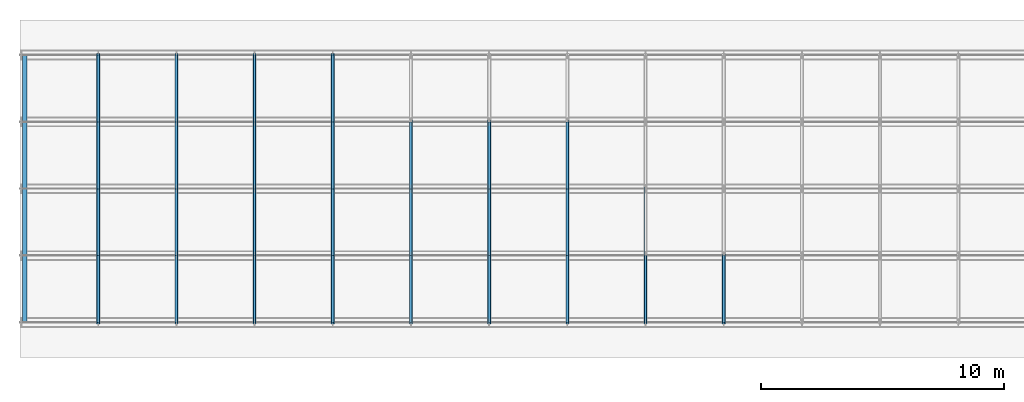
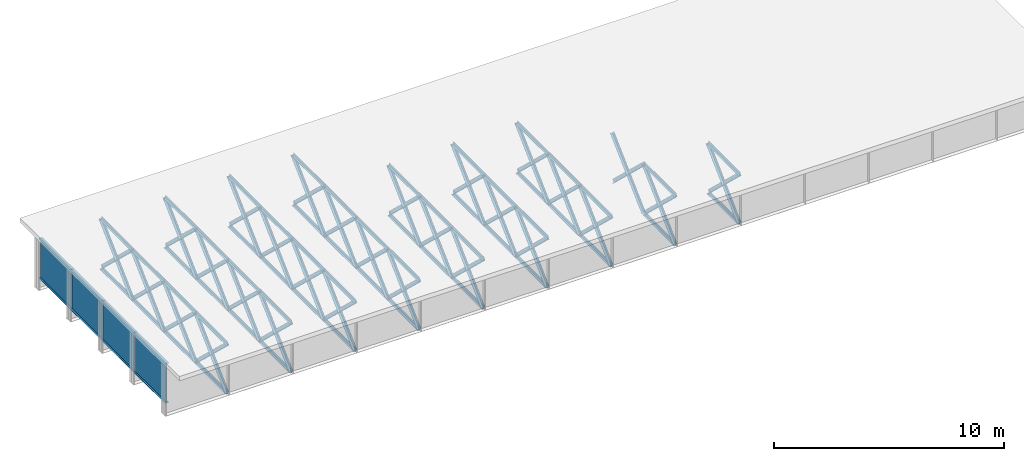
# One storey, part 1 of 20: 114 members.
"""IFC4 building model written with IfcOpenShell, lengths in metres."""

import ifcopenshell
import ifcopenshell.guid

model = None  # the IFC model being written
_history = None  # IfcOwnerHistory: only IFC2X3 demands one
_inside = {}  # id of a spatial element -> (the spatial element, [elements in it])
_under = {}  # id of a project, library or spatial element -> (it, [spatial elements below it])
_declared = {}  # id of a project -> (the project, [libraries it declares])
_typed = {}  # id of a type object -> (the type object, [elements of that type])
_made_of = {}  # id of a material, layer set ... -> (it, [elements and type objects made of it])


def new_model(schema):
    """Start an empty IFC model of exactly this schema.

    Asked for "IFC4X3", IfcOpenShell would pick the latest addendum, in which some entities
    have other attributes; the version numbers below select the first issue.
    IFC2X3 requires an IfcOwnerHistory on every rooted entity: one is made here for all.
    """
    global model, _history
    if schema == "IFC4X3":
        model = ifcopenshell.file(schema_version=(4, 3, 0, 0))
    else:
        model = ifcopenshell.file(schema=schema)
    _inside.clear()
    _under.clear()
    _declared.clear()
    _typed.clear()
    _made_of.clear()
    _history = None
    if model.schema == "IFC2X3":
        org = make("IfcOrganization", Name="unknown")
        user = make(
            "IfcPersonAndOrganization",
            ThePerson=make("IfcPerson", FamilyName="unknown"),
            TheOrganization=org,
        )
        app = make(
            "IfcApplication",
            ApplicationDeveloper=org,
            Version="unknown",
            ApplicationFullName="unknown",
            ApplicationIdentifier="unknown",
        )
        _history = make(
            "IfcOwnerHistory",
            OwningUser=user,
            OwningApplication=app,
            ChangeAction="ADDED",
            CreationDate=0,
        )
    return model


def make(cls, **values):
    """One entity of the class cls with the attributes given. An attribute that is None is left unset."""
    return model.create_entity(
        cls, **{name: value for name, value in values.items() if value is not None}
    )


def rooted(cls, **values):
    """An entity with a GlobalId (a new one), such as an element, a storey or a relation."""
    return make(cls, GlobalId=ifcopenshell.guid.new(), OwnerHistory=_history, **values)


def si_unit(unit_type, name, prefix=None):
    """IfcSIUnit, for example si_unit("LENGTHUNIT", "METRE", prefix="MILLI")."""
    return make("IfcSIUnit", UnitType=unit_type, Prefix=prefix, Name=name)


def assignment(units):
    """IfcUnitAssignment: the units of a project."""
    return None if units is None else make("IfcUnitAssignment", Units=units)


def point(xyz):
    """IfcCartesianPoint."""
    return None if xyz is None else make("IfcCartesianPoint", Coordinates=xyz)


def direction(xyz):
    """IfcDirection."""
    return None if xyz is None else make("IfcDirection", DirectionRatios=xyz)


def frame(location, z_axis=None, x_axis=None):
    """IfcAxis2Placement3D, a coordinate frame: its origin and axes. An axis left out is left unset."""
    return make(
        "IfcAxis2Placement3D",
        Location=point(location),
        Axis=direction(z_axis),
        RefDirection=direction(x_axis),
    )


def frame_2d(location, x_axis=None):
    """IfcAxis2Placement2D, a coordinate frame in the plane: its origin and x axis."""
    return make(
        "IfcAxis2Placement2D", Location=point(location), RefDirection=direction(x_axis)
    )


def origin():
    """The frame at (0, 0, 0) with its axes left unset."""
    return frame((0.0, 0.0, 0.0))


def origin_with_axes():
    """The frame at (0, 0, 0) with the z axis (0, 0, 1) and the x axis (1, 0, 0) written out."""
    return frame((0.0, 0.0, 0.0), z_axis=(0.0, 0.0, 1.0), x_axis=(1.0, 0.0, 0.0))


def origin_2d_with_axis():
    """The frame at (0, 0) in the plane with the x axis (1, 0) written out."""
    return frame_2d((0.0, 0.0), x_axis=(1.0, 0.0))


def place(relative_to, where):
    """IfcLocalPlacement: puts the frame where relative to a parent placement (None: the world)."""
    return make(
        "IfcLocalPlacement", PlacementRelTo=relative_to, RelativePlacement=where
    )


def context(
    kind, dimensions, precision=None, world=None, true_north=None, identifier=None
):
    """IfcGeometricRepresentationContext, for example the 3D "Model" context."""
    return make(
        "IfcGeometricRepresentationContext",
        ContextIdentifier=identifier,
        ContextType=kind,
        CoordinateSpaceDimension=dimensions,
        Precision=precision,
        WorldCoordinateSystem=world,
        TrueNorth=true_north,
    )


def subcontext(parent, identifier, kind, view, scale=None):
    """IfcGeometricRepresentationSubContext, for example "Body" below "Model"."""
    return make(
        "IfcGeometricRepresentationSubContext",
        ContextIdentifier=identifier,
        ContextType=kind,
        ParentContext=parent,
        TargetScale=scale,
        TargetView=view,
    )


def project(units=None, contexts=None):
    """IfcProject with its units and contexts."""
    return rooted(
        "IfcProject",
        Name="project",
        RepresentationContexts=contexts,
        UnitsInContext=assignment(units),
    )


def spatial(cls, under=None, at=None, **own):
    """A site, building, storey or space (cls), placed at a placement, below another one or the project."""
    s = rooted(cls, ObjectPlacement=at, **own)
    if under is not None:
        _under.setdefault(under.id(), (under, []))[1].append(s)
    return s


def profile(cls, at=None, kind="AREA", **sizes):
    """A parametric profile (cls). Its sizes go by their IFC names, for example OverallWidth=200.0."""
    return make(cls, ProfileType=kind, Position=at, **sizes)


def i_section(**sizes):
    """IfcIShapeProfileDef."""
    return profile("IfcIShapeProfileDef", **sizes)


def l_section(**sizes):
    """IfcLShapeProfileDef."""
    return profile("IfcLShapeProfileDef", **sizes)


def extrude(swept, where, along, depth):
    """IfcExtrudedAreaSolid: the profile swept, set in the frame where, extruded along a direction by depth."""
    return make(
        "IfcExtrudedAreaSolid",
        SweptArea=swept,
        Position=where,
        ExtrudedDirection=direction(along),
        Depth=depth,
    )


def shape(context_of_items, identifier, shape_type, items):
    """IfcShapeRepresentation: the items that make up one representation, for example the "Body"."""
    return make(
        "IfcShapeRepresentation",
        ContextOfItems=context_of_items,
        RepresentationIdentifier=identifier,
        RepresentationType=shape_type,
        Items=items,
    )


def made_of(thing, what):
    """Note that an element or type object is made of a material, layer set ...; save() writes the relation."""
    if what is not None:
        _made_of.setdefault(what.id(), (what, []))[1].append(thing)
    return thing


def element(
    cls,
    number,
    at=None,
    inside=None,
    cuts=None,
    type_object=None,
    material=None,
    context=None,
    identifier="Body",
    shape_type=None,
    held_by="IfcProductDefinitionShape",
    body=None,
    shapes=None,
    **own,
):
    """One element of the class cls, such as IfcWall. Its Tag is "e" and its number.

    at: its placement. inside: the storey or other place that contains it. cuts: it is an
    opening in that element (IfcRelVoidsElement). A single representation is given by context,
    identifier, shape_type and body (its items); several are given by shapes. held_by: the class
    of the entity that holds the representations. save() writes the other relations.
    """
    e = rooted(cls, Tag="e%d" % number, ObjectPlacement=at, **own)
    if body is not None:
        shapes = [shape(context, identifier, shape_type, body)]
    if shapes is not None:
        e.Representation = make(held_by, Representations=shapes)
    if inside is not None:
        _inside.setdefault(inside.id(), (inside, []))[1].append(e)
    if cuts is not None:
        rooted(
            "IfcRelVoidsElement", RelatingBuildingElement=cuts, RelatedOpeningElement=e
        )
    if type_object is not None:
        _typed.setdefault(type_object.id(), (type_object, []))[1].append(e)
    return made_of(e, material)


def aggregate(whole, parts):
    """IfcRelAggregates: a whole, such as a stair, and the parts it consists of."""
    return rooted("IfcRelAggregates", RelatingObject=whole, RelatedObjects=parts)


def save(model, path):
    """Write the relations noted so far, then the file.

    IfcRelAggregates (storeys below a building ...), IfcRelContainedInSpatialStructure (elements
    in a storey), IfcRelDefinesByType, IfcRelAssociatesMaterial and IfcRelDeclares: one each for
    every whole, place, type object, material and project.
    """
    for whole, parts in _under.values():
        aggregate(whole, parts)
    for where, things in _inside.values():
        rooted(
            "IfcRelContainedInSpatialStructure",
            RelatedElements=things,
            RelatingStructure=where,
        )
    for kind, things in _typed.values():
        rooted("IfcRelDefinesByType", RelatedObjects=things, RelatingType=kind)
    for what, things in _made_of.values():
        rooted("IfcRelAssociatesMaterial", RelatedObjects=things, RelatingMaterial=what)
    for by, libraries in _declared.values():
        rooted("IfcRelDeclares", RelatingContext=by, RelatedDefinitions=libraries)
    model.write(path)


model = new_model("IFC4")

# Units and contexts
model_context = context("Model", 3, precision=1e-05, world=origin())
body_context = subcontext(model_context, "Body", "Model", "MODEL_VIEW")
ifc_project = project(units=[si_unit("LENGTHUNIT", "METRE"), si_unit("AREAUNIT", "SQUARE_METRE"), si_unit("VOLUMEUNIT", "CUBIC_METRE"), si_unit("PLANEANGLEUNIT", "RADIAN")], contexts=[model_context])

# Site, building, storey
site_placement = place(None, origin_with_axes())
site = spatial("IfcSite", under=ifc_project, at=site_placement, Name="Default Site")
building_placement = place(site_placement, origin_with_axes())
building = spatial("IfcBuilding", under=site, at=building_placement, Name="Bridge Structure")
storey_placement = place(building_placement, origin_with_axes())
storey = spatial("IfcBuildingStorey", under=building, at=storey_placement, Name="Superstructure")

# Members
for number, where, z_axis, x_axis, name in (
    (1, (0.2, -5.5, 0.2615), (0.0, 1.0, 0.0), (-1.0, 0.0, 0.0), "End Diaphragm"),
    (2, (0.2, -2.75, 0.2615), (0.0, 1.0, 0.0), (-1.0, 0.0, 0.0), "End Diaphragm"),
    (3, (0.2, 0.0, 0.2615), (0.0, 1.0, 0.0), (-1.0, 0.0, 0.0), "End Diaphragm"),
    (4, (0.2, 2.75, 0.2615), (0.0, 1.0, 0.0), (-1.0, 0.0, 0.0), "End Diaphragm"),
):
    element("IfcMember", number, at=place(storey_placement, frame(where, z_axis=z_axis, x_axis=x_axis)), inside=storey, Name=name, context=body_context, shape_type="SweptSolid", body=[
        extrude(i_section(OverallWidth=0.195, OverallDepth=2.091, WebThickness=0.018000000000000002, FlangeThickness=0.012, at=origin_2d_with_axis()), origin_with_axes(), (0.0, 0.0, 1.0), 2.75),
    ])
for number, where, z_axis, x_axis, name in (
    (5, (3.2142857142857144, -5.5, 1.307), (0.0, 0.7248019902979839, -0.6889572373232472), (-1.0, 0.0, 0.0), "Diagonal Brace"),
    (6, (3.2142857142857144, -5.5, -1.307), (0.0, 0.7248019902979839, 0.6889572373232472), (-1.0, 0.0, 0.0), "Diagonal Brace"),
):
    element("IfcMember", number, at=place(storey_placement, frame(where, z_axis=z_axis, x_axis=x_axis)), inside=storey, Name=name, context=body_context, shape_type="SweptSolid", body=[
        extrude(l_section(Depth=0.196, Width=0.13, Thickness=0.008, at=origin_2d_with_axis()), origin_with_axes(), (0.0, 0.0, 1.0), 3.794139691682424),
    ])
for number, where, z_axis, x_axis, name in (
    (7, (3.2142857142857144, -5.5, -1.307), (0.0, 1.0, 0.0), (-1.0, 0.0, 0.0), "Bottom Chord"),
    (8, (3.2142857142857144, -5.5, 1.307), (0.0, 1.0, 0.0), (-1.0, 0.0, 0.0), "Top Chord"),
):
    element("IfcMember", number, at=place(storey_placement, frame(where, z_axis=z_axis, x_axis=x_axis)), inside=storey, Name=name, context=body_context, shape_type="SweptSolid", body=[
        extrude(l_section(Depth=0.169, Width=0.10400000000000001, Thickness=0.008, at=origin_2d_with_axis()), origin_with_axes(), (0.0, 0.0, 1.0), 2.75),
    ])
for number, where, z_axis, x_axis, name in (
    (9, (3.2142857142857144, -2.75, 1.307), (0.0, 0.7248019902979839, -0.6889572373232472), (-1.0, 0.0, 0.0), "Diagonal Brace"),
    (10, (3.2142857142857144, -2.75, -1.307), (0.0, 0.7248019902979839, 0.6889572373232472), (-1.0, 0.0, 0.0), "Diagonal Brace"),
):
    element("IfcMember", number, at=place(storey_placement, frame(where, z_axis=z_axis, x_axis=x_axis)), inside=storey, Name=name, context=body_context, shape_type="SweptSolid", body=[
        extrude(l_section(Depth=0.196, Width=0.13, Thickness=0.008, at=origin_2d_with_axis()), origin_with_axes(), (0.0, 0.0, 1.0), 3.794139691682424),
    ])
for number, where, z_axis, x_axis, name in (
    (11, (3.2142857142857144, -2.75, -1.307), (0.0, 1.0, 0.0), (-1.0, 0.0, 0.0), "Bottom Chord"),
    (12, (3.2142857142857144, -2.75, 1.307), (0.0, 1.0, 0.0), (-1.0, 0.0, 0.0), "Top Chord"),
):
    element("IfcMember", number, at=place(storey_placement, frame(where, z_axis=z_axis, x_axis=x_axis)), inside=storey, Name=name, context=body_context, shape_type="SweptSolid", body=[
        extrude(l_section(Depth=0.169, Width=0.10400000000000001, Thickness=0.008, at=origin_2d_with_axis()), origin_with_axes(), (0.0, 0.0, 1.0), 2.75),
    ])
for number, where, z_axis, x_axis, name in (
    (13, (3.2142857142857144, 0.0, 1.307), (0.0, 0.7248019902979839, -0.6889572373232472), (-1.0, 0.0, 0.0), "Diagonal Brace"),
    (14, (3.2142857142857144, 0.0, -1.307), (0.0, 0.7248019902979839, 0.6889572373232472), (-1.0, 0.0, 0.0), "Diagonal Brace"),
):
    element("IfcMember", number, at=place(storey_placement, frame(where, z_axis=z_axis, x_axis=x_axis)), inside=storey, Name=name, context=body_context, shape_type="SweptSolid", body=[
        extrude(l_section(Depth=0.196, Width=0.13, Thickness=0.008, at=origin_2d_with_axis()), origin_with_axes(), (0.0, 0.0, 1.0), 3.794139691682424),
    ])
for number, where, z_axis, x_axis, name in (
    (15, (3.2142857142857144, 0.0, -1.307), (0.0, 1.0, 0.0), (-1.0, 0.0, 0.0), "Bottom Chord"),
    (16, (3.2142857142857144, 0.0, 1.307), (0.0, 1.0, 0.0), (-1.0, 0.0, 0.0), "Top Chord"),
):
    element("IfcMember", number, at=place(storey_placement, frame(where, z_axis=z_axis, x_axis=x_axis)), inside=storey, Name=name, context=body_context, shape_type="SweptSolid", body=[
        extrude(l_section(Depth=0.169, Width=0.10400000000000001, Thickness=0.008, at=origin_2d_with_axis()), origin_with_axes(), (0.0, 0.0, 1.0), 2.75),
    ])
for number, where, z_axis, x_axis, name in (
    (17, (3.2142857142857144, 2.75, 1.307), (0.0, 0.7248019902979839, -0.6889572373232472), (-1.0, 0.0, 0.0), "Diagonal Brace"),
    (18, (3.2142857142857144, 2.75, -1.307), (0.0, 0.7248019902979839, 0.6889572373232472), (-1.0, 0.0, 0.0), "Diagonal Brace"),
):
    element("IfcMember", number, at=place(storey_placement, frame(where, z_axis=z_axis, x_axis=x_axis)), inside=storey, Name=name, context=body_context, shape_type="SweptSolid", body=[
        extrude(l_section(Depth=0.196, Width=0.13, Thickness=0.008, at=origin_2d_with_axis()), origin_with_axes(), (0.0, 0.0, 1.0), 3.794139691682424),
    ])
for number, where, z_axis, x_axis, name in (
    (19, (3.2142857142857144, 2.75, -1.307), (0.0, 1.0, 0.0), (-1.0, 0.0, 0.0), "Bottom Chord"),
    (20, (3.2142857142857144, 2.75, 1.307), (0.0, 1.0, 0.0), (-1.0, 0.0, 0.0), "Top Chord"),
):
    element("IfcMember", number, at=place(storey_placement, frame(where, z_axis=z_axis, x_axis=x_axis)), inside=storey, Name=name, context=body_context, shape_type="SweptSolid", body=[
        extrude(l_section(Depth=0.169, Width=0.10400000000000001, Thickness=0.008, at=origin_2d_with_axis()), origin_with_axes(), (0.0, 0.0, 1.0), 2.75),
    ])
for number, where, z_axis, x_axis, name in (
    (21, (6.428571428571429, -5.5, 1.307), (0.0, 0.7248019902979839, -0.6889572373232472), (-1.0, 0.0, 0.0), "Diagonal Brace"),
    (22, (6.428571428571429, -5.5, -1.307), (0.0, 0.7248019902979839, 0.6889572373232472), (-1.0, 0.0, 0.0), "Diagonal Brace"),
):
    element("IfcMember", number, at=place(storey_placement, frame(where, z_axis=z_axis, x_axis=x_axis)), inside=storey, Name=name, context=body_context, shape_type="SweptSolid", body=[
        extrude(l_section(Depth=0.196, Width=0.13, Thickness=0.008, at=origin_2d_with_axis()), origin_with_axes(), (0.0, 0.0, 1.0), 3.794139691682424),
    ])
for number, where, z_axis, x_axis, name in (
    (23, (6.428571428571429, -5.5, -1.307), (0.0, 1.0, 0.0), (-1.0, 0.0, 0.0), "Bottom Chord"),
    (24, (6.428571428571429, -5.5, 1.307), (0.0, 1.0, 0.0), (-1.0, 0.0, 0.0), "Top Chord"),
):
    element("IfcMember", number, at=place(storey_placement, frame(where, z_axis=z_axis, x_axis=x_axis)), inside=storey, Name=name, context=body_context, shape_type="SweptSolid", body=[
        extrude(l_section(Depth=0.169, Width=0.10400000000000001, Thickness=0.008, at=origin_2d_with_axis()), origin_with_axes(), (0.0, 0.0, 1.0), 2.75),
    ])
for number, where, z_axis, x_axis, name in (
    (25, (6.428571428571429, -2.75, 1.307), (0.0, 0.7248019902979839, -0.6889572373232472), (-1.0, 0.0, 0.0), "Diagonal Brace"),
    (26, (6.428571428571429, -2.75, -1.307), (0.0, 0.7248019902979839, 0.6889572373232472), (-1.0, 0.0, 0.0), "Diagonal Brace"),
):
    element("IfcMember", number, at=place(storey_placement, frame(where, z_axis=z_axis, x_axis=x_axis)), inside=storey, Name=name, context=body_context, shape_type="SweptSolid", body=[
        extrude(l_section(Depth=0.196, Width=0.13, Thickness=0.008, at=origin_2d_with_axis()), origin_with_axes(), (0.0, 0.0, 1.0), 3.794139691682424),
    ])
for number, where, z_axis, x_axis, name in (
    (27, (6.428571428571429, -2.75, -1.307), (0.0, 1.0, 0.0), (-1.0, 0.0, 0.0), "Bottom Chord"),
    (28, (6.428571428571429, -2.75, 1.307), (0.0, 1.0, 0.0), (-1.0, 0.0, 0.0), "Top Chord"),
):
    element("IfcMember", number, at=place(storey_placement, frame(where, z_axis=z_axis, x_axis=x_axis)), inside=storey, Name=name, context=body_context, shape_type="SweptSolid", body=[
        extrude(l_section(Depth=0.169, Width=0.10400000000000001, Thickness=0.008, at=origin_2d_with_axis()), origin_with_axes(), (0.0, 0.0, 1.0), 2.75),
    ])
for number, where, z_axis, x_axis, name in (
    (29, (6.428571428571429, 0.0, 1.307), (0.0, 0.7248019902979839, -0.6889572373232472), (-1.0, 0.0, 0.0), "Diagonal Brace"),
    (30, (6.428571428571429, 0.0, -1.307), (0.0, 0.7248019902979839, 0.6889572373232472), (-1.0, 0.0, 0.0), "Diagonal Brace"),
):
    element("IfcMember", number, at=place(storey_placement, frame(where, z_axis=z_axis, x_axis=x_axis)), inside=storey, Name=name, context=body_context, shape_type="SweptSolid", body=[
        extrude(l_section(Depth=0.196, Width=0.13, Thickness=0.008, at=origin_2d_with_axis()), origin_with_axes(), (0.0, 0.0, 1.0), 3.794139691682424),
    ])
for number, where, z_axis, x_axis, name in (
    (31, (6.428571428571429, 0.0, -1.307), (0.0, 1.0, 0.0), (-1.0, 0.0, 0.0), "Bottom Chord"),
    (32, (6.428571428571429, 0.0, 1.307), (0.0, 1.0, 0.0), (-1.0, 0.0, 0.0), "Top Chord"),
):
    element("IfcMember", number, at=place(storey_placement, frame(where, z_axis=z_axis, x_axis=x_axis)), inside=storey, Name=name, context=body_context, shape_type="SweptSolid", body=[
        extrude(l_section(Depth=0.169, Width=0.10400000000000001, Thickness=0.008, at=origin_2d_with_axis()), origin_with_axes(), (0.0, 0.0, 1.0), 2.75),
    ])
for number, where, z_axis, x_axis, name in (
    (33, (6.428571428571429, 2.75, 1.307), (0.0, 0.7248019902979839, -0.6889572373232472), (-1.0, 0.0, 0.0), "Diagonal Brace"),
    (34, (6.428571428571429, 2.75, -1.307), (0.0, 0.7248019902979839, 0.6889572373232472), (-1.0, 0.0, 0.0), "Diagonal Brace"),
):
    element("IfcMember", number, at=place(storey_placement, frame(where, z_axis=z_axis, x_axis=x_axis)), inside=storey, Name=name, context=body_context, shape_type="SweptSolid", body=[
        extrude(l_section(Depth=0.196, Width=0.13, Thickness=0.008, at=origin_2d_with_axis()), origin_with_axes(), (0.0, 0.0, 1.0), 3.794139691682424),
    ])
for number, where, z_axis, x_axis, name in (
    (35, (6.428571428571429, 2.75, -1.307), (0.0, 1.0, 0.0), (-1.0, 0.0, 0.0), "Bottom Chord"),
    (36, (6.428571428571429, 2.75, 1.307), (0.0, 1.0, 0.0), (-1.0, 0.0, 0.0), "Top Chord"),
):
    element("IfcMember", number, at=place(storey_placement, frame(where, z_axis=z_axis, x_axis=x_axis)), inside=storey, Name=name, context=body_context, shape_type="SweptSolid", body=[
        extrude(l_section(Depth=0.169, Width=0.10400000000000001, Thickness=0.008, at=origin_2d_with_axis()), origin_with_axes(), (0.0, 0.0, 1.0), 2.75),
    ])
for number, where, z_axis, x_axis, name in (
    (37, (9.642857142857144, -5.5, 1.307), (0.0, 0.7248019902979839, -0.6889572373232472), (-1.0, 0.0, 0.0), "Diagonal Brace"),
    (38, (9.642857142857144, -5.5, -1.307), (0.0, 0.7248019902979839, 0.6889572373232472), (-1.0, 0.0, 0.0), "Diagonal Brace"),
):
    element("IfcMember", number, at=place(storey_placement, frame(where, z_axis=z_axis, x_axis=x_axis)), inside=storey, Name=name, context=body_context, shape_type="SweptSolid", body=[
        extrude(l_section(Depth=0.196, Width=0.13, Thickness=0.008, at=origin_2d_with_axis()), origin_with_axes(), (0.0, 0.0, 1.0), 3.794139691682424),
    ])
for number, where, z_axis, x_axis, name in (
    (39, (9.642857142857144, -5.5, -1.307), (0.0, 1.0, 0.0), (-1.0, 0.0, 0.0), "Bottom Chord"),
    (40, (9.642857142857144, -5.5, 1.307), (0.0, 1.0, 0.0), (-1.0, 0.0, 0.0), "Top Chord"),
):
    element("IfcMember", number, at=place(storey_placement, frame(where, z_axis=z_axis, x_axis=x_axis)), inside=storey, Name=name, context=body_context, shape_type="SweptSolid", body=[
        extrude(l_section(Depth=0.169, Width=0.10400000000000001, Thickness=0.008, at=origin_2d_with_axis()), origin_with_axes(), (0.0, 0.0, 1.0), 2.75),
    ])
for number, where, z_axis, x_axis, name in (
    (41, (9.642857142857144, -2.75, 1.307), (0.0, 0.7248019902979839, -0.6889572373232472), (-1.0, 0.0, 0.0), "Diagonal Brace"),
    (42, (9.642857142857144, -2.75, -1.307), (0.0, 0.7248019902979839, 0.6889572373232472), (-1.0, 0.0, 0.0), "Diagonal Brace"),
):
    element("IfcMember", number, at=place(storey_placement, frame(where, z_axis=z_axis, x_axis=x_axis)), inside=storey, Name=name, context=body_context, shape_type="SweptSolid", body=[
        extrude(l_section(Depth=0.196, Width=0.13, Thickness=0.008, at=origin_2d_with_axis()), origin_with_axes(), (0.0, 0.0, 1.0), 3.794139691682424),
    ])
for number, where, z_axis, x_axis, name in (
    (43, (9.642857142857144, -2.75, -1.307), (0.0, 1.0, 0.0), (-1.0, 0.0, 0.0), "Bottom Chord"),
    (44, (9.642857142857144, -2.75, 1.307), (0.0, 1.0, 0.0), (-1.0, 0.0, 0.0), "Top Chord"),
):
    element("IfcMember", number, at=place(storey_placement, frame(where, z_axis=z_axis, x_axis=x_axis)), inside=storey, Name=name, context=body_context, shape_type="SweptSolid", body=[
        extrude(l_section(Depth=0.169, Width=0.10400000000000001, Thickness=0.008, at=origin_2d_with_axis()), origin_with_axes(), (0.0, 0.0, 1.0), 2.75),
    ])
for number, where, z_axis, x_axis, name in (
    (45, (9.642857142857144, 0.0, 1.307), (0.0, 0.7248019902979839, -0.6889572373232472), (-1.0, 0.0, 0.0), "Diagonal Brace"),
    (46, (9.642857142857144, 0.0, -1.307), (0.0, 0.7248019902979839, 0.6889572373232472), (-1.0, 0.0, 0.0), "Diagonal Brace"),
):
    element("IfcMember", number, at=place(storey_placement, frame(where, z_axis=z_axis, x_axis=x_axis)), inside=storey, Name=name, context=body_context, shape_type="SweptSolid", body=[
        extrude(l_section(Depth=0.196, Width=0.13, Thickness=0.008, at=origin_2d_with_axis()), origin_with_axes(), (0.0, 0.0, 1.0), 3.794139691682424),
    ])
for number, where, z_axis, x_axis, name in (
    (47, (9.642857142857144, 0.0, -1.307), (0.0, 1.0, 0.0), (-1.0, 0.0, 0.0), "Bottom Chord"),
    (48, (9.642857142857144, 0.0, 1.307), (0.0, 1.0, 0.0), (-1.0, 0.0, 0.0), "Top Chord"),
):
    element("IfcMember", number, at=place(storey_placement, frame(where, z_axis=z_axis, x_axis=x_axis)), inside=storey, Name=name, context=body_context, shape_type="SweptSolid", body=[
        extrude(l_section(Depth=0.169, Width=0.10400000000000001, Thickness=0.008, at=origin_2d_with_axis()), origin_with_axes(), (0.0, 0.0, 1.0), 2.75),
    ])
for number, where, z_axis, x_axis, name in (
    (49, (9.642857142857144, 2.75, 1.307), (0.0, 0.7248019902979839, -0.6889572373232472), (-1.0, 0.0, 0.0), "Diagonal Brace"),
    (50, (9.642857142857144, 2.75, -1.307), (0.0, 0.7248019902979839, 0.6889572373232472), (-1.0, 0.0, 0.0), "Diagonal Brace"),
):
    element("IfcMember", number, at=place(storey_placement, frame(where, z_axis=z_axis, x_axis=x_axis)), inside=storey, Name=name, context=body_context, shape_type="SweptSolid", body=[
        extrude(l_section(Depth=0.196, Width=0.13, Thickness=0.008, at=origin_2d_with_axis()), origin_with_axes(), (0.0, 0.0, 1.0), 3.794139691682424),
    ])
for number, where, z_axis, x_axis, name in (
    (51, (9.642857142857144, 2.75, -1.307), (0.0, 1.0, 0.0), (-1.0, 0.0, 0.0), "Bottom Chord"),
    (52, (9.642857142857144, 2.75, 1.307), (0.0, 1.0, 0.0), (-1.0, 0.0, 0.0), "Top Chord"),
):
    element("IfcMember", number, at=place(storey_placement, frame(where, z_axis=z_axis, x_axis=x_axis)), inside=storey, Name=name, context=body_context, shape_type="SweptSolid", body=[
        extrude(l_section(Depth=0.169, Width=0.10400000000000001, Thickness=0.008, at=origin_2d_with_axis()), origin_with_axes(), (0.0, 0.0, 1.0), 2.75),
    ])
for number, where, z_axis, x_axis, name in (
    (53, (12.857142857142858, -5.5, 1.307), (0.0, 0.7248019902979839, -0.6889572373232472), (-1.0, 0.0, 0.0), "Diagonal Brace"),
    (54, (12.857142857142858, -5.5, -1.307), (0.0, 0.7248019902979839, 0.6889572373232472), (-1.0, 0.0, 0.0), "Diagonal Brace"),
):
    element("IfcMember", number, at=place(storey_placement, frame(where, z_axis=z_axis, x_axis=x_axis)), inside=storey, Name=name, context=body_context, shape_type="SweptSolid", body=[
        extrude(l_section(Depth=0.196, Width=0.13, Thickness=0.008, at=origin_2d_with_axis()), origin_with_axes(), (0.0, 0.0, 1.0), 3.794139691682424),
    ])
for number, where, z_axis, x_axis, name in (
    (55, (12.857142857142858, -5.5, -1.307), (0.0, 1.0, 0.0), (-1.0, 0.0, 0.0), "Bottom Chord"),
    (56, (12.857142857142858, -5.5, 1.307), (0.0, 1.0, 0.0), (-1.0, 0.0, 0.0), "Top Chord"),
):
    element("IfcMember", number, at=place(storey_placement, frame(where, z_axis=z_axis, x_axis=x_axis)), inside=storey, Name=name, context=body_context, shape_type="SweptSolid", body=[
        extrude(l_section(Depth=0.169, Width=0.10400000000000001, Thickness=0.008, at=origin_2d_with_axis()), origin_with_axes(), (0.0, 0.0, 1.0), 2.75),
    ])
for number, where, z_axis, x_axis, name in (
    (57, (12.857142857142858, -2.75, 1.307), (0.0, 0.7248019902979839, -0.6889572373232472), (-1.0, 0.0, 0.0), "Diagonal Brace"),
    (58, (12.857142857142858, -2.75, -1.307), (0.0, 0.7248019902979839, 0.6889572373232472), (-1.0, 0.0, 0.0), "Diagonal Brace"),
):
    element("IfcMember", number, at=place(storey_placement, frame(where, z_axis=z_axis, x_axis=x_axis)), inside=storey, Name=name, context=body_context, shape_type="SweptSolid", body=[
        extrude(l_section(Depth=0.196, Width=0.13, Thickness=0.008, at=origin_2d_with_axis()), origin_with_axes(), (0.0, 0.0, 1.0), 3.794139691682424),
    ])
for number, where, z_axis, x_axis, name in (
    (59, (12.857142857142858, -2.75, -1.307), (0.0, 1.0, 0.0), (-1.0, 0.0, 0.0), "Bottom Chord"),
    (60, (12.857142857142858, -2.75, 1.307), (0.0, 1.0, 0.0), (-1.0, 0.0, 0.0), "Top Chord"),
):
    element("IfcMember", number, at=place(storey_placement, frame(where, z_axis=z_axis, x_axis=x_axis)), inside=storey, Name=name, context=body_context, shape_type="SweptSolid", body=[
        extrude(l_section(Depth=0.169, Width=0.10400000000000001, Thickness=0.008, at=origin_2d_with_axis()), origin_with_axes(), (0.0, 0.0, 1.0), 2.75),
    ])
for number, where, z_axis, x_axis, name in (
    (61, (12.857142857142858, 0.0, 1.307), (0.0, 0.7248019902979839, -0.6889572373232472), (-1.0, 0.0, 0.0), "Diagonal Brace"),
    (62, (12.857142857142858, 0.0, -1.307), (0.0, 0.7248019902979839, 0.6889572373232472), (-1.0, 0.0, 0.0), "Diagonal Brace"),
):
    element("IfcMember", number, at=place(storey_placement, frame(where, z_axis=z_axis, x_axis=x_axis)), inside=storey, Name=name, context=body_context, shape_type="SweptSolid", body=[
        extrude(l_section(Depth=0.196, Width=0.13, Thickness=0.008, at=origin_2d_with_axis()), origin_with_axes(), (0.0, 0.0, 1.0), 3.794139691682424),
    ])
for number, where, z_axis, x_axis, name in (
    (63, (12.857142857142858, 0.0, -1.307), (0.0, 1.0, 0.0), (-1.0, 0.0, 0.0), "Bottom Chord"),
    (64, (12.857142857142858, 0.0, 1.307), (0.0, 1.0, 0.0), (-1.0, 0.0, 0.0), "Top Chord"),
):
    element("IfcMember", number, at=place(storey_placement, frame(where, z_axis=z_axis, x_axis=x_axis)), inside=storey, Name=name, context=body_context, shape_type="SweptSolid", body=[
        extrude(l_section(Depth=0.169, Width=0.10400000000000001, Thickness=0.008, at=origin_2d_with_axis()), origin_with_axes(), (0.0, 0.0, 1.0), 2.75),
    ])
for number, where, z_axis, x_axis, name in (
    (65, (12.857142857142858, 2.75, 1.307), (0.0, 0.7248019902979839, -0.6889572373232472), (-1.0, 0.0, 0.0), "Diagonal Brace"),
    (66, (12.857142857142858, 2.75, -1.307), (0.0, 0.7248019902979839, 0.6889572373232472), (-1.0, 0.0, 0.0), "Diagonal Brace"),
):
    element("IfcMember", number, at=place(storey_placement, frame(where, z_axis=z_axis, x_axis=x_axis)), inside=storey, Name=name, context=body_context, shape_type="SweptSolid", body=[
        extrude(l_section(Depth=0.196, Width=0.13, Thickness=0.008, at=origin_2d_with_axis()), origin_with_axes(), (0.0, 0.0, 1.0), 3.794139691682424),
    ])
for number, where, z_axis, x_axis, name in (
    (67, (12.857142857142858, 2.75, -1.307), (0.0, 1.0, 0.0), (-1.0, 0.0, 0.0), "Bottom Chord"),
    (68, (12.857142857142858, 2.75, 1.307), (0.0, 1.0, 0.0), (-1.0, 0.0, 0.0), "Top Chord"),
):
    element("IfcMember", number, at=place(storey_placement, frame(where, z_axis=z_axis, x_axis=x_axis)), inside=storey, Name=name, context=body_context, shape_type="SweptSolid", body=[
        extrude(l_section(Depth=0.169, Width=0.10400000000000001, Thickness=0.008, at=origin_2d_with_axis()), origin_with_axes(), (0.0, 0.0, 1.0), 2.75),
    ])
for number, where, z_axis, x_axis, name in (
    (69, (16.07142857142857, -5.5, 1.307), (0.0, 0.7248019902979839, -0.6889572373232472), (-1.0, 0.0, 0.0), "Diagonal Brace"),
    (70, (16.07142857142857, -5.5, -1.307), (0.0, 0.7248019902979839, 0.6889572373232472), (-1.0, 0.0, 0.0), "Diagonal Brace"),
):
    element("IfcMember", number, at=place(storey_placement, frame(where, z_axis=z_axis, x_axis=x_axis)), inside=storey, Name=name, context=body_context, shape_type="SweptSolid", body=[
        extrude(l_section(Depth=0.196, Width=0.13, Thickness=0.008, at=origin_2d_with_axis()), origin_with_axes(), (0.0, 0.0, 1.0), 3.794139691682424),
    ])
for number, where, z_axis, x_axis, name in (
    (71, (16.07142857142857, -5.5, -1.307), (0.0, 1.0, 0.0), (-1.0, 0.0, 0.0), "Bottom Chord"),
    (72, (16.07142857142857, -5.5, 1.307), (0.0, 1.0, 0.0), (-1.0, 0.0, 0.0), "Top Chord"),
):
    element("IfcMember", number, at=place(storey_placement, frame(where, z_axis=z_axis, x_axis=x_axis)), inside=storey, Name=name, context=body_context, shape_type="SweptSolid", body=[
        extrude(l_section(Depth=0.169, Width=0.10400000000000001, Thickness=0.008, at=origin_2d_with_axis()), origin_with_axes(), (0.0, 0.0, 1.0), 2.75),
    ])
for number, where, z_axis, x_axis, name in (
    (73, (16.07142857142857, -2.75, 1.307), (0.0, 0.7248019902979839, -0.6889572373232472), (-1.0, 0.0, 0.0), "Diagonal Brace"),
    (74, (16.07142857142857, -2.75, -1.307), (0.0, 0.7248019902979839, 0.6889572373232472), (-1.0, 0.0, 0.0), "Diagonal Brace"),
):
    element("IfcMember", number, at=place(storey_placement, frame(where, z_axis=z_axis, x_axis=x_axis)), inside=storey, Name=name, context=body_context, shape_type="SweptSolid", body=[
        extrude(l_section(Depth=0.196, Width=0.13, Thickness=0.008, at=origin_2d_with_axis()), origin_with_axes(), (0.0, 0.0, 1.0), 3.794139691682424),
    ])
for number, where, z_axis, x_axis, name in (
    (75, (16.07142857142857, -2.75, -1.307), (0.0, 1.0, 0.0), (-1.0, 0.0, 0.0), "Bottom Chord"),
    (76, (16.07142857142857, -2.75, 1.307), (0.0, 1.0, 0.0), (-1.0, 0.0, 0.0), "Top Chord"),
):
    element("IfcMember", number, at=place(storey_placement, frame(where, z_axis=z_axis, x_axis=x_axis)), inside=storey, Name=name, context=body_context, shape_type="SweptSolid", body=[
        extrude(l_section(Depth=0.169, Width=0.10400000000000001, Thickness=0.008, at=origin_2d_with_axis()), origin_with_axes(), (0.0, 0.0, 1.0), 2.75),
    ])
for number, where, z_axis, x_axis, name in (
    (77, (16.07142857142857, 0.0, 1.307), (0.0, 0.7248019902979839, -0.6889572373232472), (-1.0, 0.0, 0.0), "Diagonal Brace"),
    (78, (16.07142857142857, 0.0, -1.307), (0.0, 0.7248019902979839, 0.6889572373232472), (-1.0, 0.0, 0.0), "Diagonal Brace"),
):
    element("IfcMember", number, at=place(storey_placement, frame(where, z_axis=z_axis, x_axis=x_axis)), inside=storey, Name=name, context=body_context, shape_type="SweptSolid", body=[
        extrude(l_section(Depth=0.196, Width=0.13, Thickness=0.008, at=origin_2d_with_axis()), origin_with_axes(), (0.0, 0.0, 1.0), 3.794139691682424),
    ])
for number, where, z_axis, x_axis, name in (
    (79, (16.07142857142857, 0.0, -1.307), (0.0, 1.0, 0.0), (-1.0, 0.0, 0.0), "Bottom Chord"),
    (80, (16.07142857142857, 0.0, 1.307), (0.0, 1.0, 0.0), (-1.0, 0.0, 0.0), "Top Chord"),
):
    element("IfcMember", number, at=place(storey_placement, frame(where, z_axis=z_axis, x_axis=x_axis)), inside=storey, Name=name, context=body_context, shape_type="SweptSolid", body=[
        extrude(l_section(Depth=0.169, Width=0.10400000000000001, Thickness=0.008, at=origin_2d_with_axis()), origin_with_axes(), (0.0, 0.0, 1.0), 2.75),
    ])
for number, where, z_axis, x_axis, name in (
    (81, (19.28571428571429, -5.5, 1.307), (0.0, 0.7248019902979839, -0.6889572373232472), (-1.0, 0.0, 0.0), "Diagonal Brace"),
    (82, (19.28571428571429, -5.5, -1.307), (0.0, 0.7248019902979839, 0.6889572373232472), (-1.0, 0.0, 0.0), "Diagonal Brace"),
):
    element("IfcMember", number, at=place(storey_placement, frame(where, z_axis=z_axis, x_axis=x_axis)), inside=storey, Name=name, context=body_context, shape_type="SweptSolid", body=[
        extrude(l_section(Depth=0.196, Width=0.13, Thickness=0.008, at=origin_2d_with_axis()), origin_with_axes(), (0.0, 0.0, 1.0), 3.794139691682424),
    ])
for number, where, z_axis, x_axis, name in (
    (83, (19.28571428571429, -5.5, -1.307), (0.0, 1.0, 0.0), (-1.0, 0.0, 0.0), "Bottom Chord"),
    (84, (19.28571428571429, -5.5, 1.307), (0.0, 1.0, 0.0), (-1.0, 0.0, 0.0), "Top Chord"),
):
    element("IfcMember", number, at=place(storey_placement, frame(where, z_axis=z_axis, x_axis=x_axis)), inside=storey, Name=name, context=body_context, shape_type="SweptSolid", body=[
        extrude(l_section(Depth=0.169, Width=0.10400000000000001, Thickness=0.008, at=origin_2d_with_axis()), origin_with_axes(), (0.0, 0.0, 1.0), 2.75),
    ])
for number, where, z_axis, x_axis, name in (
    (85, (19.28571428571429, -2.75, 1.307), (0.0, 0.7248019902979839, -0.6889572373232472), (-1.0, 0.0, 0.0), "Diagonal Brace"),
    (86, (19.28571428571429, -2.75, -1.307), (0.0, 0.7248019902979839, 0.6889572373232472), (-1.0, 0.0, 0.0), "Diagonal Brace"),
):
    element("IfcMember", number, at=place(storey_placement, frame(where, z_axis=z_axis, x_axis=x_axis)), inside=storey, Name=name, context=body_context, shape_type="SweptSolid", body=[
        extrude(l_section(Depth=0.196, Width=0.13, Thickness=0.008, at=origin_2d_with_axis()), origin_with_axes(), (0.0, 0.0, 1.0), 3.794139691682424),
    ])
for number, where, z_axis, x_axis, name in (
    (87, (19.28571428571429, -2.75, -1.307), (0.0, 1.0, 0.0), (-1.0, 0.0, 0.0), "Bottom Chord"),
    (88, (19.28571428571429, -2.75, 1.307), (0.0, 1.0, 0.0), (-1.0, 0.0, 0.0), "Top Chord"),
):
    element("IfcMember", number, at=place(storey_placement, frame(where, z_axis=z_axis, x_axis=x_axis)), inside=storey, Name=name, context=body_context, shape_type="SweptSolid", body=[
        extrude(l_section(Depth=0.169, Width=0.10400000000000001, Thickness=0.008, at=origin_2d_with_axis()), origin_with_axes(), (0.0, 0.0, 1.0), 2.75),
    ])
for number, where, z_axis, x_axis, name in (
    (89, (19.28571428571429, 0.0, 1.307), (0.0, 0.7248019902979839, -0.6889572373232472), (-1.0, 0.0, 0.0), "Diagonal Brace"),
    (90, (19.28571428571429, 0.0, -1.307), (0.0, 0.7248019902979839, 0.6889572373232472), (-1.0, 0.0, 0.0), "Diagonal Brace"),
):
    element("IfcMember", number, at=place(storey_placement, frame(where, z_axis=z_axis, x_axis=x_axis)), inside=storey, Name=name, context=body_context, shape_type="SweptSolid", body=[
        extrude(l_section(Depth=0.196, Width=0.13, Thickness=0.008, at=origin_2d_with_axis()), origin_with_axes(), (0.0, 0.0, 1.0), 3.794139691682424),
    ])
for number, where, z_axis, x_axis, name in (
    (91, (19.28571428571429, 0.0, -1.307), (0.0, 1.0, 0.0), (-1.0, 0.0, 0.0), "Bottom Chord"),
    (92, (19.28571428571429, 0.0, 1.307), (0.0, 1.0, 0.0), (-1.0, 0.0, 0.0), "Top Chord"),
):
    element("IfcMember", number, at=place(storey_placement, frame(where, z_axis=z_axis, x_axis=x_axis)), inside=storey, Name=name, context=body_context, shape_type="SweptSolid", body=[
        extrude(l_section(Depth=0.169, Width=0.10400000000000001, Thickness=0.008, at=origin_2d_with_axis()), origin_with_axes(), (0.0, 0.0, 1.0), 2.75),
    ])
for number, where, z_axis, x_axis, name in (
    (93, (22.5, -5.5, 1.307), (0.0, 0.7248019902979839, -0.6889572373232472), (-1.0, 0.0, 0.0), "Diagonal Brace"),
    (94, (22.5, -5.5, -1.307), (0.0, 0.7248019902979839, 0.6889572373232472), (-1.0, 0.0, 0.0), "Diagonal Brace"),
):
    element("IfcMember", number, at=place(storey_placement, frame(where, z_axis=z_axis, x_axis=x_axis)), inside=storey, Name=name, context=body_context, shape_type="SweptSolid", body=[
        extrude(l_section(Depth=0.196, Width=0.13, Thickness=0.008, at=origin_2d_with_axis()), origin_with_axes(), (0.0, 0.0, 1.0), 3.794139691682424),
    ])
for number, where, z_axis, x_axis, name in (
    (95, (22.5, -5.5, -1.307), (0.0, 1.0, 0.0), (-1.0, 0.0, 0.0), "Bottom Chord"),
    (96, (22.5, -5.5, 1.307), (0.0, 1.0, 0.0), (-1.0, 0.0, 0.0), "Top Chord"),
):
    element("IfcMember", number, at=place(storey_placement, frame(where, z_axis=z_axis, x_axis=x_axis)), inside=storey, Name=name, context=body_context, shape_type="SweptSolid", body=[
        extrude(l_section(Depth=0.169, Width=0.10400000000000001, Thickness=0.008, at=origin_2d_with_axis()), origin_with_axes(), (0.0, 0.0, 1.0), 2.75),
    ])
for number, where, z_axis, x_axis, name in (
    (97, (22.5, -2.75, 1.307), (0.0, 0.7248019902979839, -0.6889572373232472), (-1.0, 0.0, 0.0), "Diagonal Brace"),
    (98, (22.5, -2.75, -1.307), (0.0, 0.7248019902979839, 0.6889572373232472), (-1.0, 0.0, 0.0), "Diagonal Brace"),
):
    element("IfcMember", number, at=place(storey_placement, frame(where, z_axis=z_axis, x_axis=x_axis)), inside=storey, Name=name, context=body_context, shape_type="SweptSolid", body=[
        extrude(l_section(Depth=0.196, Width=0.13, Thickness=0.008, at=origin_2d_with_axis()), origin_with_axes(), (0.0, 0.0, 1.0), 3.794139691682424),
    ])
for number, where, z_axis, x_axis, name in (
    (99, (22.5, -2.75, -1.307), (0.0, 1.0, 0.0), (-1.0, 0.0, 0.0), "Bottom Chord"),
    (100, (22.5, -2.75, 1.307), (0.0, 1.0, 0.0), (-1.0, 0.0, 0.0), "Top Chord"),
):
    element("IfcMember", number, at=place(storey_placement, frame(where, z_axis=z_axis, x_axis=x_axis)), inside=storey, Name=name, context=body_context, shape_type="SweptSolid", body=[
        extrude(l_section(Depth=0.169, Width=0.10400000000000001, Thickness=0.008, at=origin_2d_with_axis()), origin_with_axes(), (0.0, 0.0, 1.0), 2.75),
    ])
for number, where, z_axis, x_axis, name in (
    (101, (22.5, 0.0, 1.307), (0.0, 0.7248019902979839, -0.6889572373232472), (-1.0, 0.0, 0.0), "Diagonal Brace"),
    (102, (22.5, 0.0, -1.307), (0.0, 0.7248019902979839, 0.6889572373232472), (-1.0, 0.0, 0.0), "Diagonal Brace"),
):
    element("IfcMember", number, at=place(storey_placement, frame(where, z_axis=z_axis, x_axis=x_axis)), inside=storey, Name=name, context=body_context, shape_type="SweptSolid", body=[
        extrude(l_section(Depth=0.196, Width=0.13, Thickness=0.008, at=origin_2d_with_axis()), origin_with_axes(), (0.0, 0.0, 1.0), 3.794139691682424),
    ])
for number, where, z_axis, x_axis, name in (
    (103, (22.5, 0.0, -1.307), (0.0, 1.0, 0.0), (-1.0, 0.0, 0.0), "Bottom Chord"),
    (104, (22.5, 0.0, 1.307), (0.0, 1.0, 0.0), (-1.0, 0.0, 0.0), "Top Chord"),
):
    element("IfcMember", number, at=place(storey_placement, frame(where, z_axis=z_axis, x_axis=x_axis)), inside=storey, Name=name, context=body_context, shape_type="SweptSolid", body=[
        extrude(l_section(Depth=0.169, Width=0.10400000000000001, Thickness=0.008, at=origin_2d_with_axis()), origin_with_axes(), (0.0, 0.0, 1.0), 2.75),
    ])
for number, where, z_axis, x_axis, name in (
    (105, (25.714285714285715, -5.5, 1.307), (0.0, 0.7248019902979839, -0.6889572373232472), (-1.0, 0.0, 0.0), "Diagonal Brace"),
    (106, (25.714285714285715, -5.5, -1.307), (0.0, 0.7248019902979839, 0.6889572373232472), (-1.0, 0.0, 0.0), "Diagonal Brace"),
):
    element("IfcMember", number, at=place(storey_placement, frame(where, z_axis=z_axis, x_axis=x_axis)), inside=storey, Name=name, context=body_context, shape_type="SweptSolid", body=[
        extrude(l_section(Depth=0.196, Width=0.13, Thickness=0.008, at=origin_2d_with_axis()), origin_with_axes(), (0.0, 0.0, 1.0), 3.794139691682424),
    ])
for number, where, z_axis, x_axis, name in (
    (107, (25.714285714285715, -5.5, -1.307), (0.0, 1.0, 0.0), (-1.0, 0.0, 0.0), "Bottom Chord"),
    (108, (25.714285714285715, -5.5, 1.307), (0.0, 1.0, 0.0), (-1.0, 0.0, 0.0), "Top Chord"),
):
    element("IfcMember", number, at=place(storey_placement, frame(where, z_axis=z_axis, x_axis=x_axis)), inside=storey, Name=name, context=body_context, shape_type="SweptSolid", body=[
        extrude(l_section(Depth=0.169, Width=0.10400000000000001, Thickness=0.008, at=origin_2d_with_axis()), origin_with_axes(), (0.0, 0.0, 1.0), 2.75),
    ])
for number, where, z_axis, x_axis, name in (
    (109, (25.714285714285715, -2.75, 1.307), (0.0, 0.7248019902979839, -0.6889572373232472), (-1.0, 0.0, 0.0), "Diagonal Brace"),
    (110, (25.714285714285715, -2.75, -1.307), (0.0, 0.7248019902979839, 0.6889572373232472), (-1.0, 0.0, 0.0), "Diagonal Brace"),
    (111, (28.928571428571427, -5.5, 1.307), (0.0, 0.7248019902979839, -0.6889572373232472), (-1.0, 0.0, 0.0), "Diagonal Brace"),
    (112, (28.928571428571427, -5.5, -1.307), (0.0, 0.7248019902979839, 0.6889572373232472), (-1.0, 0.0, 0.0), "Diagonal Brace"),
):
    element("IfcMember", number, at=place(storey_placement, frame(where, z_axis=z_axis, x_axis=x_axis)), inside=storey, Name=name, context=body_context, shape_type="SweptSolid", body=[
        extrude(l_section(Depth=0.196, Width=0.13, Thickness=0.008, at=origin_2d_with_axis()), origin_with_axes(), (0.0, 0.0, 1.0), 3.794139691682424),
    ])
for number, where, z_axis, x_axis, name in (
    (113, (28.928571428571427, -5.5, -1.307), (0.0, 1.0, 0.0), (-1.0, 0.0, 0.0), "Bottom Chord"),
    (114, (28.928571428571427, -5.5, 1.307), (0.0, 1.0, 0.0), (-1.0, 0.0, 0.0), "Top Chord"),
):
    element("IfcMember", number, at=place(storey_placement, frame(where, z_axis=z_axis, x_axis=x_axis)), inside=storey, Name=name, context=body_context, shape_type="SweptSolid", body=[
        extrude(l_section(Depth=0.169, Width=0.10400000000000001, Thickness=0.008, at=origin_2d_with_axis()), origin_with_axes(), (0.0, 0.0, 1.0), 2.75),
    ])

save(model, "model.ifc")
